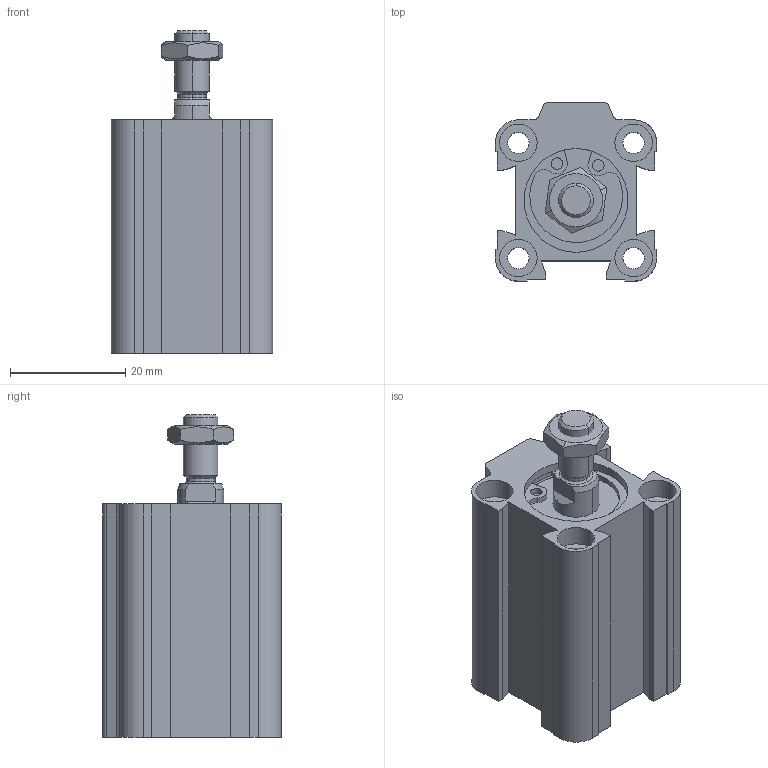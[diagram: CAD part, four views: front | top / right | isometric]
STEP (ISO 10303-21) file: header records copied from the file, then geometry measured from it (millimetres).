
FILE_DESCRIPTION (( 'STEP AP214' ), '1' );
FILE_NAME ('WSAC-016-0010-ML (3D).STEP', '2020-09-18T08:09:53', ( '' ), ( '' ), 'SwSTEP 2.0', 'SolidWorks 2016', '' );
FILE_SCHEMA (( 'AUTOMOTIVE_DESIGN' ));
Length unit declared in the file: millimetre
Products named in the file (4): Group3^WSAC-016-0010-ML (3D); Group1^WSAC-016-0010-ML (3D); Group2^WSAC-016-0010-ML (3D); WSAC-016-0010-ML (3D)
Assembly tree (3 placements, depth 2):
  WSAC-016-0010-ML (3D)
    Group1^WSAC-016-0010-ML (3D)
    Group2^WSAC-016-0010-ML (3D)
    Group3^WSAC-016-0010-ML (3D)
Bounding box: 28 x 31 x 56 mm (x, y, z)
Volume: 23068 mm3; surface area: 14183.8 mm2
Topology: 7 solids, 7 shells, 462 faces, 1181 edges, 783 vertices
Faces by surface type: plane 255, cylinder 107, bspline 85, cone 15
Entity records: 21298 total; most frequent: CARTESIAN_POINT 8107, ORIENTED_EDGE 2362, DIRECTION 1938, EDGE_CURVE 1181, VERTEX_POINT 783, LINE 690, VECTOR 690, AXIS2_PLACEMENT_3D 624
